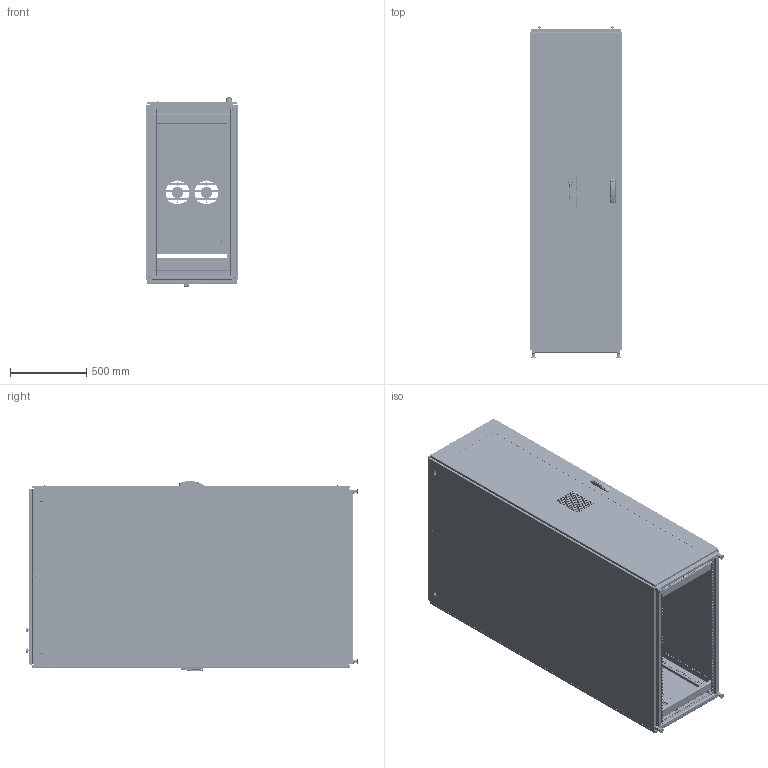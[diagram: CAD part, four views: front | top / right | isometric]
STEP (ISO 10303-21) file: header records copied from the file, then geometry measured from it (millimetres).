
FILE_DESCRIPTION (( 'STEP AP203' ), '1' );
FILE_NAME ('ps1s21612b.STEP', '2019-11-01T17:50:15', ( '' ), ( '' ), 'SwSTEP 2.0', 'SolidWorks 2016', '' );
FILE_SCHEMA (( 'CONFIG_CONTROL_DESIGN' ));
Length unit declared in the file: millimetre
Products named in the file (91): 89090300; 89101845; 11258030_11258030; 89167116_89167116; 60127101_60127101; ps1s21612b; 89091664_875472289; 11258733_Full Length flat; 60127199_60127199; 89165751_89165751; 11258029_11258029; 89165657_87788599; 30127077; 87417023; 60127372_60127372; 60127024_As installed; 11458172_11458172; 60127135_installed position SS; 87792981; 89165660_87788601; 87931368_SLEEVE; 99401225_Config-Drawing; 89165741_87788602; 87931362_87931362; 89092909_87788538; 60127013; 45129001_45129001; 89165738; 87543196_Installed; 11158139_11158139; 89092827; 87932266; 89165739_21458568; 91120001_91120001; 87780929; 64201001; 89090302; 11158141_11158141; 87931527_87931527; 64210001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
Assembly tree (210 placements, depth 5):
  ps1s21612b
    89165545_87794135
      60127013  x8
      89092827  x4
      30127077  x4
      87780929  x4
    60127024_As installed  x8
    87790199  x6
    89090302  x6
      89090300
        89090299_87790201
        60127135_installed position SS  x2
        87543196_Installed  x2
      60127199_60127199
      56906712_56906712
    89165655
      89165656
        89165657_87788599
        60127101_60127101  x2
        60100041_60100041  x2
          87931527_87931527
          87931368_SLEEVE
        89093694_87788602
        99411910  x2
        87931362_87931362  x2
      60127372_60127372
        11158139_11158139
        11258030_11258030
        11458172_11458172
        60127208
        60127207
        11458171_11458171
        11358776_11358776
        11158180_11158180
        11258029_11258029
        11158141_11158141
        11158140_11158140
      89092909_87788538  x2
      27131001  x2
      91120001_91120001  x2
      87938982_87938982
        64201001
        87541995
        87932266
        87927840_87927840
        64210001
        87950638_87950638
        11258598_11258598
        99401452  x2
      87932903  x2
      87792981  x2
      87792979  x2
      89168254_1 INCH SQUARE  x2
    89165658
      89165659
        89165660_87788601
        60127101_60127101  x2
        60100041_60100041  x2
          87931527_87931527
          87931368_SLEEVE
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Bounding box: 610.88 x 2181.62 x 1247.82 mm (x, y, z)
Volume: 20479422.9 mm3; surface area: 24670084.2 mm2
Topology: 263 solids, 304 shells, 33208 faces, 90003 edges, 57926 vertices
Faces by surface type: plane 16440, cylinder 13155, bspline 1395, torus 1244, cone 959, sphere 15
Entity records: 525598 total; most frequent: CARTESIAN_POINT 140963, ORIENTED_EDGE 77018, DIRECTION 76193, EDGE_CURVE 38529, AXIS2_PLACEMENT_3D 27196, VERTEX_POINT 24899, LINE 21801, VECTOR 21801
